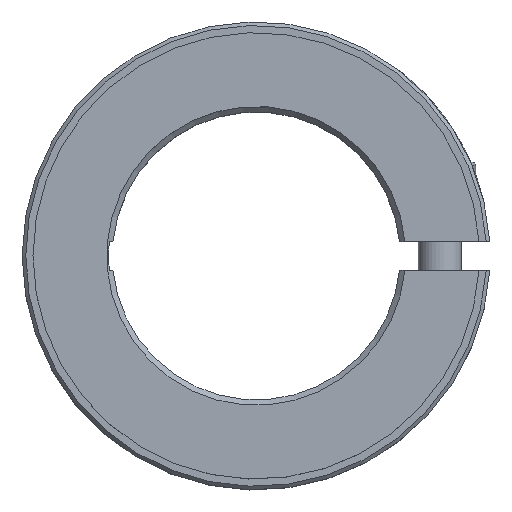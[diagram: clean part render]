
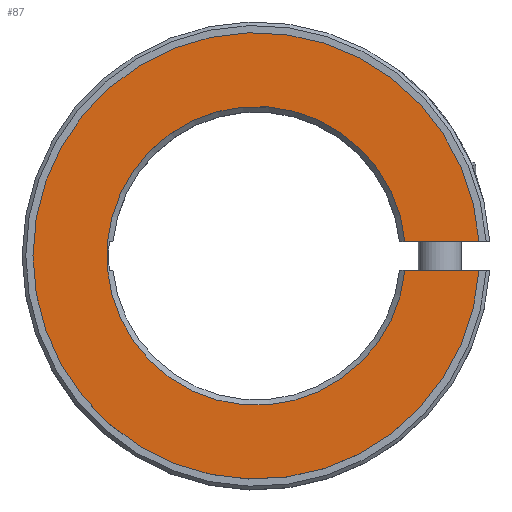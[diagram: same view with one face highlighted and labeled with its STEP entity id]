
A CAD part, top view. The second image highlights one B-rep face of the part: STEP entity #87.
In plain terms, the highlighted planar face has unit normal (0, 0, 1).
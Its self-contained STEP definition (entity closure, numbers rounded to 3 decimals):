
#87 = ADVANCED_FACE( '', ( #138 ), #139, .T. );
#138 = FACE_OUTER_BOUND( '', #221, .T. );
#139 = PLANE( '', #222 );
#221 = EDGE_LOOP( '', ( #379, #380, #381, #382 ) );
#222 = AXIS2_PLACEMENT_3D( '', #383, #384, #385 );
#379 = ORIENTED_EDGE( '', *, *, #599, .F. );
#380 = ORIENTED_EDGE( '', *, *, #587, .T. );
#381 = ORIENTED_EDGE( '', *, *, #600, .T. );
#382 = ORIENTED_EDGE( '', *, *, #592, .T. );
#383 = CARTESIAN_POINT( '', ( 0., 31., 10.5 ) );
#384 = DIRECTION( '', ( 0., 0., 1. ) );
#385 = DIRECTION( '', ( 1., 0., 0. ) );
#587 = EDGE_CURVE( '', #701, #699, #702, .T. );
#592 = EDGE_CURVE( '', #710, #708, #711, .T. );
#599 = EDGE_CURVE( '', #701, #708, #720, .T. );
#600 = EDGE_CURVE( '', #699, #710, #721, .T. );
#699 = VERTEX_POINT( '', #970 );
#701 = VERTEX_POINT( '', #973 );
#702 = LINE( '', #974, #975 );
#708 = VERTEX_POINT( '', #984 );
#710 = VERTEX_POINT( '', #987 );
#711 = LINE( '', #988, #989 );
#720 = CIRCLE( '', #1003, 31. );
#721 = CIRCLE( '', #1004, 20.75 );
#970 = CARTESIAN_POINT( '', ( 20.65, -2.03, 10.5 ) );
#973 = CARTESIAN_POINT( '', ( 30.933, -2.03, 10.5 ) );
#974 = CARTESIAN_POINT( '', ( 0., -2.03, 10.5 ) );
#975 = VECTOR( '', #1140, 1000. );
#984 = CARTESIAN_POINT( '', ( 30.933, 2.03, 10.5 ) );
#987 = CARTESIAN_POINT( '', ( 20.65, 2.03, 10.5 ) );
#988 = CARTESIAN_POINT( '', ( 0., 2.03, 10.5 ) );
#989 = VECTOR( '', #1145, 1000. );
#1003 = AXIS2_PLACEMENT_3D( '', #1157, #1158, #1159 );
#1004 = AXIS2_PLACEMENT_3D( '', #1160, #1161, #1162 );
#1140 = DIRECTION( '', ( -1., 0., 0. ) );
#1145 = DIRECTION( '', ( 1., 0., 0. ) );
#1157 = CARTESIAN_POINT( '', ( 0., 0., 10.5 ) );
#1158 = DIRECTION( '', ( 0., 0., -1. ) );
#1159 = DIRECTION( '', ( -1., 0., 0. ) );
#1160 = CARTESIAN_POINT( '', ( 0., 0., 10.5 ) );
#1161 = DIRECTION( '', ( 0., 0., -1. ) );
#1162 = DIRECTION( '', ( -1., 0., 0. ) );
